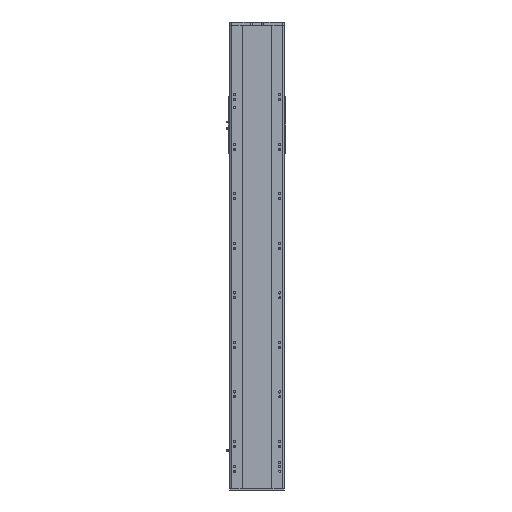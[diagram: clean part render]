
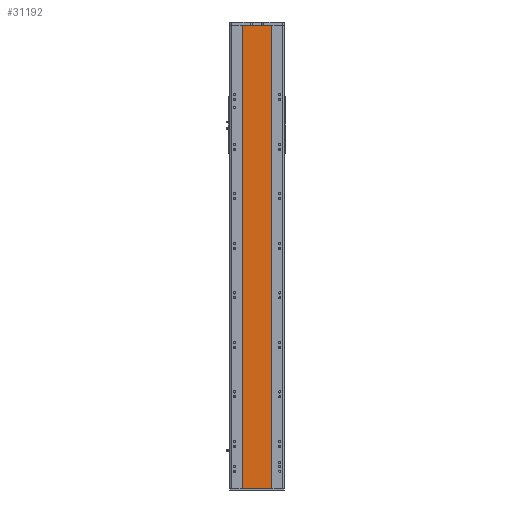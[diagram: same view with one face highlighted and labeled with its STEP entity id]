
A CAD part, front view. The second image highlights one B-rep face of the part: STEP entity #31192.
In plain terms, the highlighted planar face has unit normal (0, -1, 0).
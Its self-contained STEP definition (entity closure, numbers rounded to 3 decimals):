
#699 = CARTESIAN_POINT ( 'NONE',  ( -59., 1., -935.5 ) ) ;
#2456 = AXIS2_PLACEMENT_3D ( 'NONE', #37473, #37069, #19229 ) ;
#2931 = EDGE_LOOP ( 'NONE', ( #14378, #29030, #23330, #35846 ) ) ;
#4501 = EDGE_CURVE ( 'NONE', #14483, #7105, #32506, .T. ) ;
#6769 = VECTOR ( 'NONE', #17680, 1000. ) ;
#7105 = VERTEX_POINT ( 'NONE', #26083 ) ;
#7225 = VERTEX_POINT ( 'NONE', #20074 ) ;
#10052 = DIRECTION ( 'NONE',  ( 0., 0., -1. ) ) ;
#14378 = ORIENTED_EDGE ( 'NONE', *, *, #4501, .T. ) ;
#14483 = VERTEX_POINT ( 'NONE', #34800 ) ;
#15286 = VECTOR ( 'NONE', #10052, 1000. ) ;
#15573 = LINE ( 'NONE', #22346, #16040 ) ;
#15673 = EDGE_CURVE ( 'NONE', #30845, #7225, #15573, .T. ) ;
#15960 = CARTESIAN_POINT ( 'NONE',  ( -59., 1., 935.5 ) ) ;
#16040 = VECTOR ( 'NONE', #28210, 1000. ) ;
#16788 = FACE_OUTER_BOUND ( 'NONE', #2931, .T. ) ;
#16937 = EDGE_CURVE ( 'NONE', #30845, #14483, #23160, .T. ) ;
#17680 = DIRECTION ( 'NONE',  ( 0., 0., -1. ) ) ;
#18717 = CARTESIAN_POINT ( 'NONE',  ( 59., 1., 935.5 ) ) ;
#19229 = DIRECTION ( 'NONE',  ( -1., 0., 0. ) ) ;
#20074 = CARTESIAN_POINT ( 'NONE',  ( 59., 1., 935.5 ) ) ;
#22346 = CARTESIAN_POINT ( 'NONE',  ( -59., 1., 935.5 ) ) ;
#23160 = LINE ( 'NONE', #26887, #6769 ) ;
#23330 = ORIENTED_EDGE ( 'NONE', *, *, #15673, .F. ) ;
#26083 = CARTESIAN_POINT ( 'NONE',  ( 59., 1., -935.5 ) ) ;
#26887 = CARTESIAN_POINT ( 'NONE',  ( -59., 1., 935.5 ) ) ;
#28210 = DIRECTION ( 'NONE',  ( 1., 0., 0. ) ) ;
#29030 = ORIENTED_EDGE ( 'NONE', *, *, #31197, .F. ) ;
#30845 = VERTEX_POINT ( 'NONE', #15960 ) ;
#31153 = LINE ( 'NONE', #18717, #15286 ) ;
#31192 = ADVANCED_FACE ( 'NONE', ( #16788 ), #37605, .F. ) ;
#31197 = EDGE_CURVE ( 'NONE', #7225, #7105, #31153, .T. ) ;
#32506 = LINE ( 'NONE', #699, #33491 ) ;
#33491 = VECTOR ( 'NONE', #34859, 1000. ) ;
#34800 = CARTESIAN_POINT ( 'NONE',  ( -59., 1., -935.5 ) ) ;
#34859 = DIRECTION ( 'NONE',  ( 1., 0., 0. ) ) ;
#35846 = ORIENTED_EDGE ( 'NONE', *, *, #16937, .T. ) ;
#37069 = DIRECTION ( 'NONE',  ( 0., 1., 0. ) ) ;
#37473 = CARTESIAN_POINT ( 'NONE',  ( -59., 1., 935.5 ) ) ;
#37605 = PLANE ( 'NONE',  #2456 ) ;
